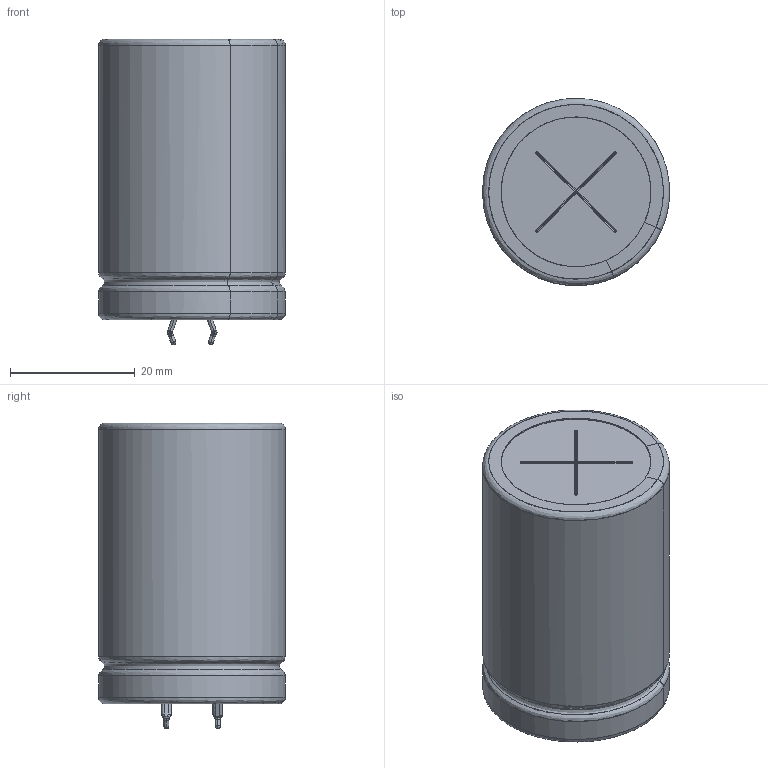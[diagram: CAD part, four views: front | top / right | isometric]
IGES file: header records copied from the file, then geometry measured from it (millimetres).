
Start section: JAMA-IS VERSION  1.0
Bounding box: 29.99 x 29.99 x 49.02 mm (x, y, z)
Surface area: 15147 mm2 (no closed solid volume)
Topology: 0 solids, 0 shells, 208 faces, 2354 edges, 2318 vertices
Faces by surface type: bspline 208
